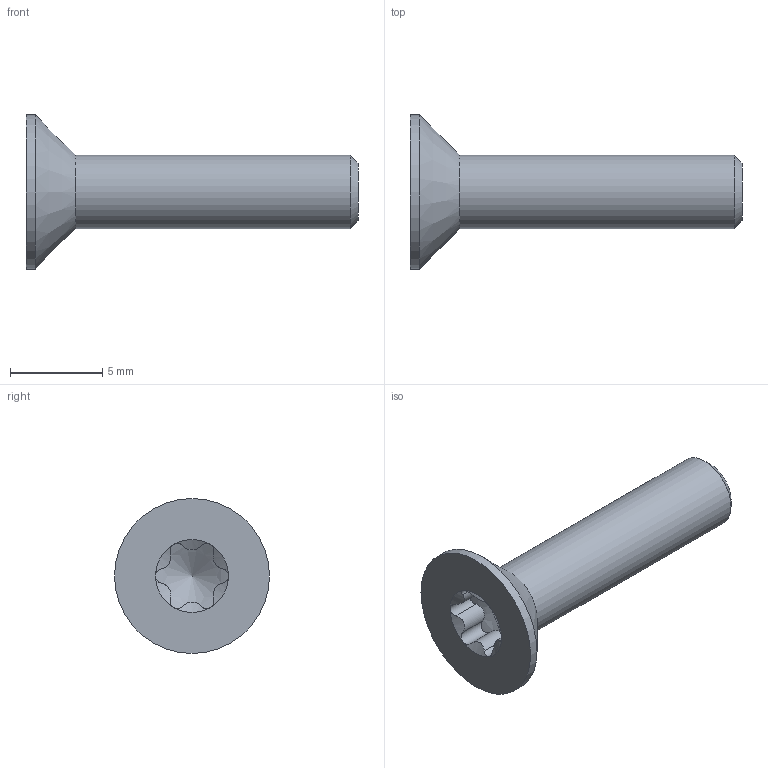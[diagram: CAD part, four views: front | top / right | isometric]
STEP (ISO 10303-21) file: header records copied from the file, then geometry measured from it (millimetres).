
FILE_DESCRIPTION(/* description */ ('BN 3803-Hexalobular (6 Lobe) socket countersunk flat head screws, fully threaded (ISO 14581), stainless steel A2'),/* implementation_level */ '2;1');
FILE_NAME(/* name */ 'C:\ADSK_DMS_WS\Designs\Vorschläge\Loc Schalen\Schraubenlängebestimmung\Schrauben\M4x18 Senkkopfschraube 90°mit TX20 A2.stp',/* time_stamp */ '2021-10-05T14:03:57+02:00',/* author */ ('gm'),/* organization */ ('BOSSARD'),/* preprocessor_version */ 'ST-DEVELOPER v16.5',/* originating_system */ 'Autodesk Inventor 2017',/* authorisation */ '');
FILE_SCHEMA (('AUTOMOTIVE_DESIGN { 1 0 10303 214 3 1 1 }'));
Length unit declared in the file: millimetre
Products named in the file (1): BN 3803  M4x18_INOX A2
Bounding box: 18 x 8.4 x 8.4 mm (x, y, z)
Volume: 269.8 mm3; surface area: 352.6 mm2
Topology: 1 solids, 1 shells, 31 faces, 83 edges, 54 vertices
Faces by surface type: cylinder 14, cone 9, plane 8
Full cylindrical faces by diameter (mm): 4 x1, 8.4 x1
Entity records: 1204 total; most frequent: CARTESIAN_POINT 492, ORIENTED_EDGE 154, DIRECTION 122, EDGE_CURVE 77, AXIS2_PLACEMENT_3D 55, VERTEX_POINT 53, B_SPLINE_CURVE_WITH_KNOTS 42, EDGE_LOOP 36
